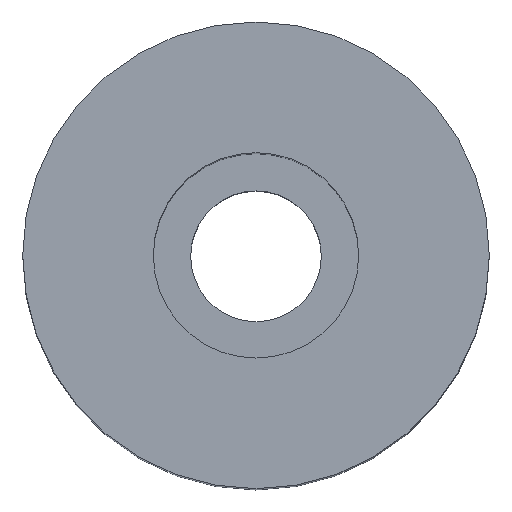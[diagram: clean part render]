
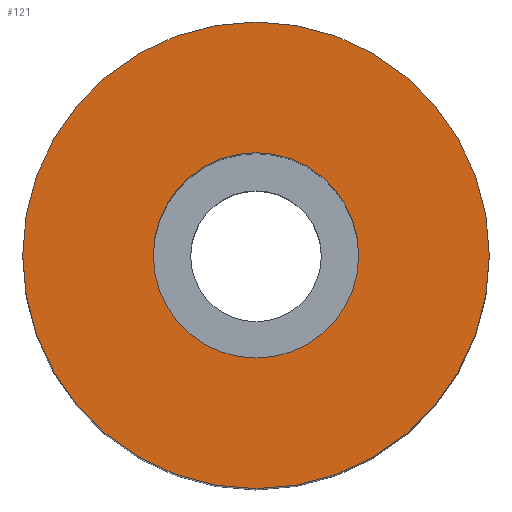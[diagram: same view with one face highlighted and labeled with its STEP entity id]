
A CAD part, top view. The second image highlights one B-rep face of the part: STEP entity #121.
In plain terms, the highlighted planar face has unit normal (0, 0, 1).
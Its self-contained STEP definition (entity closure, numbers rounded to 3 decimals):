
#121=ADVANCED_FACE('',(#133,#134),#130,.T.);
#130=PLANE('',#234);
#133=FACE_BOUND('',#139,.T.);
#134=FACE_BOUND('',#140,.T.);
#139=EDGE_LOOP('',(#151,#152));
#140=EDGE_LOOP('',(#153,#154));
#151=ORIENTED_EDGE('',*,*,#199,.T.);
#152=ORIENTED_EDGE('',*,*,#200,.T.);
#153=ORIENTED_EDGE('',*,*,#201,.F.);
#154=ORIENTED_EDGE('',*,*,#202,.F.);
#187=VERTEX_POINT('',#303);
#188=VERTEX_POINT('',#304);
#189=VERTEX_POINT('',#307);
#190=VERTEX_POINT('',#308);
#199=EDGE_CURVE('',#187,#188,#217,.T.);
#200=EDGE_CURVE('',#188,#187,#218,.T.);
#201=EDGE_CURVE('',#189,#190,#219,.T.);
#202=EDGE_CURVE('',#190,#189,#220,.T.);
#217=CIRCLE('',#230,12.5);
#218=CIRCLE('',#231,12.5);
#219=CIRCLE('',#232,5.5);
#220=CIRCLE('',#233,5.5);
#230=AXIS2_PLACEMENT_3D('',#302,#253,#254);
#231=AXIS2_PLACEMENT_3D('',#305,#255,#256);
#232=AXIS2_PLACEMENT_3D('',#306,#257,#258);
#233=AXIS2_PLACEMENT_3D('',#309,#259,#260);
#234=AXIS2_PLACEMENT_3D('',#310,#261,#262);
#253=DIRECTION('',(0.,0.,1.));
#254=DIRECTION('',(0.,1.,0.));
#255=DIRECTION('',(0.,0.,1.));
#256=DIRECTION('',(0.,-1.,0.));
#257=DIRECTION('',(0.,0.,1.));
#258=DIRECTION('',(0.,-1.,0.));
#259=DIRECTION('',(0.,0.,1.));
#260=DIRECTION('',(0.,1.,0.));
#261=DIRECTION('',(0.,0.,1.));
#262=DIRECTION('',(0.,1.,0.));
#302=CARTESIAN_POINT('',(0.,0.,40.));
#303=CARTESIAN_POINT('',(-12.5,0.,40.));
#304=CARTESIAN_POINT('',(12.5,0.,40.));
#305=CARTESIAN_POINT('',(0.,0.,40.));
#306=CARTESIAN_POINT('',(0.,0.,40.));
#307=CARTESIAN_POINT('',(5.5,0.,40.));
#308=CARTESIAN_POINT('',(-5.5,0.,40.));
#309=CARTESIAN_POINT('',(0.,0.,40.));
#310=CARTESIAN_POINT('',(0.,0.,40.));
